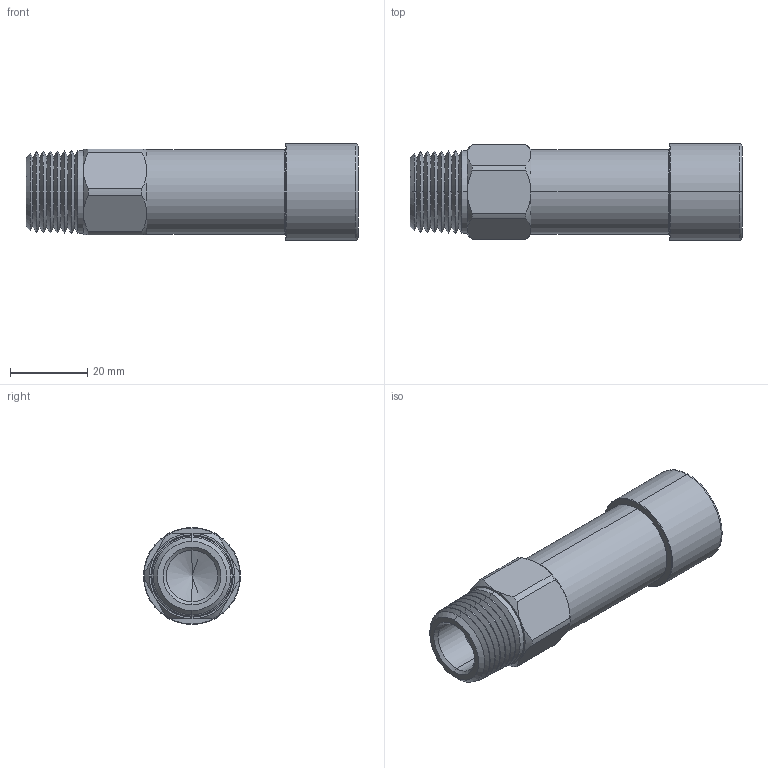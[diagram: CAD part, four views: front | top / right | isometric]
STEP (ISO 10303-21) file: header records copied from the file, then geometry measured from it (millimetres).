
FILE_DESCRIPTION (( 'STEP AP203' ), '1' );
FILE_NAME ('IRV8-8-V-10.STEP', '2015-07-06T14:23:57', ( '' ), ( '' ), 'SwSTEP 2.0', 'SolidWorks 2011', '' );
FILE_SCHEMA (( 'CONFIG_CONTROL_DESIGN' ));
Length unit declared in the file: inch
Products named in the file (2): IRV8-8-V-10; Part3^IRV8-8-V-10_CM
Assembly tree (1 placements, depth 2):
  IRV8-8-V-10
    Part3^IRV8-8-V-10_CM
Bounding box: 86.03 x 25.15 x 25.15 mm (x, y, z)
Volume: 31577.4 mm3; surface area: 8587.7 mm2
Topology: 1 solids, 1 shells, 106 faces, 222 edges, 121 vertices
Faces by surface type: cone 74, cylinder 18, plane 12, torus 2
Entity records: 3054 total; most frequent: CARTESIAN_POINT 595, DIRECTION 526, ORIENTED_EDGE 440, AXIS2_PLACEMENT_3D 220, EDGE_CURVE 220, VERTEX_POINT 121, EDGE_LOOP 111, CIRCLE 110
